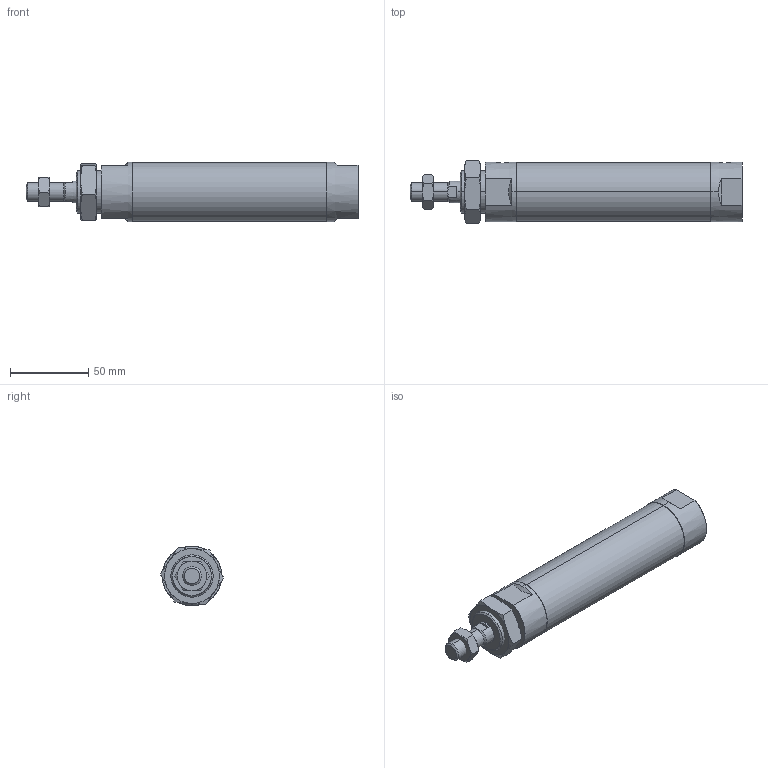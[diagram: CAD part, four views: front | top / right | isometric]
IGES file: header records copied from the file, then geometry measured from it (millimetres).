
Start section: SolidWorks IGES file using analytic representation for surfaces
Global section: file name: C:\Users\Toshiba\Desktop\JGND2-32-75-N.IGS; native system: SolidWorks 2014; preprocessor: SolidWorks 2014; author: Toshiba; date: 160804.105106; units: millimetre
Bounding box: 212 x 40.33 x 38 mm (x, y, z)
Surface area: 29575.3 mm2 (no closed solid volume)
Topology: 0 solids, 0 shells, 89 faces, 1572 edges, 1568 vertices
Faces by surface type: bspline 56, revolution 33
